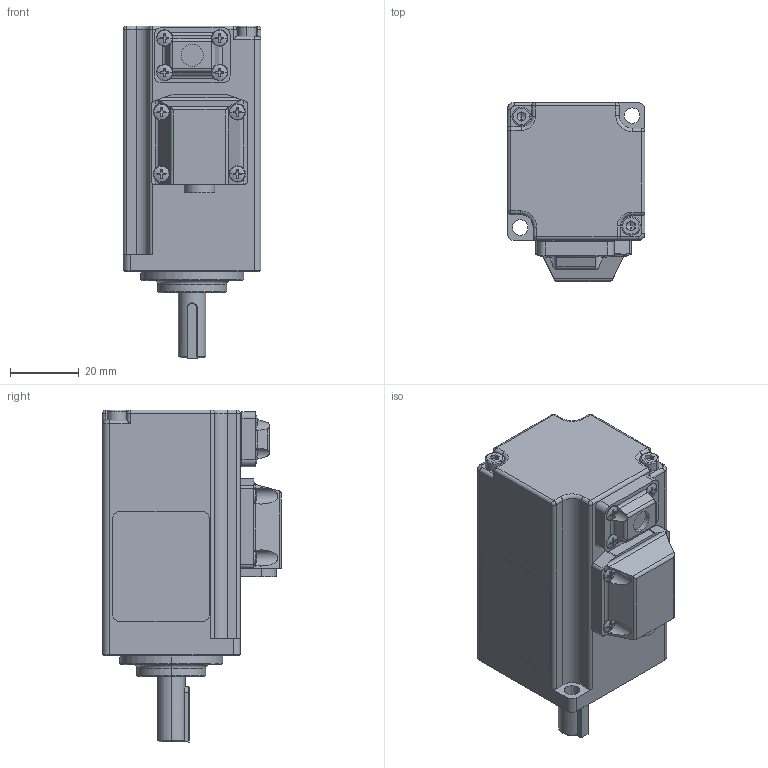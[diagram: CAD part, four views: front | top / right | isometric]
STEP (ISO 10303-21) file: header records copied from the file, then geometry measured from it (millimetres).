
FILE_DESCRIPTION((''),'2;1');
FILE_NAME('R-01E1K4A0-SUCTOMER_ASM_ASM','2021-10-18T',('weizy7'),(''),'CREO PARAMETRIC BY PTC INC, 2016260','CREO PARAMETRIC BY PTC INC, 2016260','');
FILE_SCHEMA(('CONFIG_CONTROL_DESIGN'));
Length unit declared in the file: millimetre
Products named in the file (1): R-01E1K4A0-SUCTOMER_ASM_ASM
Bounding box: 40.11 x 52 x 96.5 mm (x, y, z)
Volume: 115093.7 mm3; surface area: 21232.1 mm2
Topology: 1 solids, 28 shells, 726 faces, 1849 edges, 1168 vertices
Faces by surface type: plane 308, cylinder 279, cone 49, bspline 38, torus 28, sphere 24
Entity records: 24041 total; most frequent: CARTESIAN_POINT 6706, DIRECTION 3623, ORIENTED_EDGE 3622, EDGE_CURVE 1811, AXIS2_PLACEMENT_3D 1415, VERTEX_POINT 1168, VECTOR 793, LINE 793
